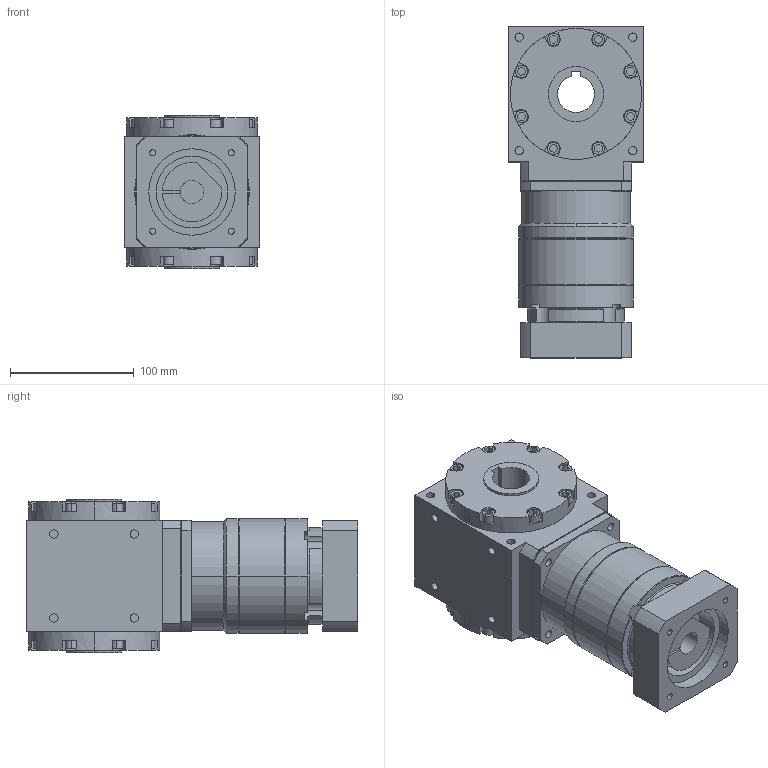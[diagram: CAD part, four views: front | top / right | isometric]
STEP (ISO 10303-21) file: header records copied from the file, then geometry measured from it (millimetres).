
FILE_DESCRIPTION (( 'STEP AP203' ), '1' );
FILE_NAME ('AAW110AS-L2-CR 19-70-90-M6.STEP', '2024-12-24T03:54:53', ( '' ), ( '' ), 'SwSTEP 2.0', 'SolidWorks 2021', '' );
FILE_SCHEMA (( 'CONFIG_CONTROL_DESIGN' ));
Length unit declared in the file: millimetre
Products named in the file (3): AAW110AS-L2-CR 19-70-90-M6; AAW110AS-CR; VRB-090-L2-S2-P1 19-70-90-M6
Assembly tree (2 placements, depth 2):
  AAW110AS-L2-CR 19-70-90-M6
    AAW110AS-CR
    VRB-090-L2-S2-P1 19-70-90-M6
Bounding box: 110 x 268.5 x 124 mm (x, y, z)
Volume: 2274098 mm3; surface area: 182112.4 mm2
Topology: 2 solids, 2 shells, 461 faces, 1138 edges, 747 vertices
Faces by surface type: plane 253, cylinder 169, cone 39
Entity records: 14084 total; most frequent: CARTESIAN_POINT 2471, DIRECTION 2457, ORIENTED_EDGE 2276, EDGE_CURVE 1138, AXIS2_PLACEMENT_3D 893, VERTEX_POINT 747, VECTOR 671, LINE 671
